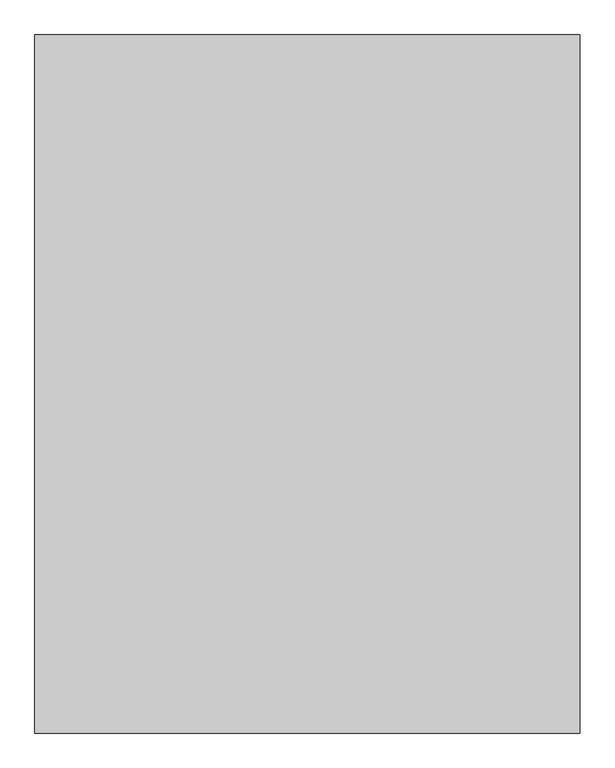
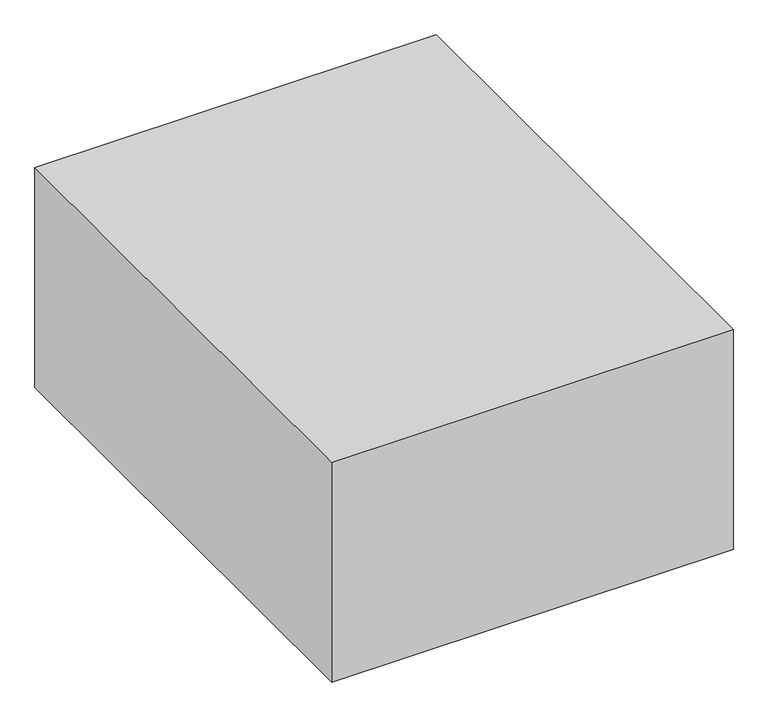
"""IFC4 building model written with IfcOpenShell, lengths in millimetres: furniture geometry, BIMHealth-Bed_Critical_Care-LOD2A-v1 : BIMHealth-Bed_Critical_Care-LOD2A-v1."""

from ifc_helpers import new_model, si_unit, point, frame, frame_2d, origin, origin_with_axes, place, context, project, spatial, polyline, circle_curve, trimmed, segment, composite_curve, outline, extrude, faceted_brep, source, transform, mapped, element, save
from ifc_brep_helpers import plane_surface, cylinder_surface, revolved_surface, advanced_brep


def furniture_204bb5f4(model_context):
    return source(origin(), model_context, "Body", "SolidModel", [
        extrude(outline(polyline([(0.0, 0.0), (147.0, 0.0), (147.0, -150.0), (0.0, -150.0), (0.0, -75.0), (0.0, 0.0)])), frame((-75.0, -1110.5547217, 487.73737), z_axis=(0.0, 0.9659258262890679, 0.25881904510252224), x_axis=(0.0, 0.25881904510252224, -0.9659258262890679)), (0.0, 0.0, 1.0), 25.0),
        extrude(outline(composite_curve([segment(trimmed(circle_curve(frame_2d((334.8033187, 1960.3143684)), 2368.2281756), [point((-2028.0823923, 2119.2980414))], [point((-1978.0823923, 2469.2980414))], False, "CARTESIAN"), True, "CONTINUOUS"), segment(trimmed(circle_curve(frame_2d((-1934.1707425, 2445.3863915)), 50.0), [point((-1978.0823923, 2469.2980414))], [point((-1958.0823924, 2489.2980414))], False, "CARTESIAN"), True, "CONTINUOUS"), segment(polyline([(-1958.0823924, 2489.2980414), (-1828.0823923, 2489.2980414), (-1828.0823923, 2369.2980414), (-1778.0823923, 2369.2980414)]), True, "CONTINUOUS"), segment(trimmed(circle_curve(frame_2d((-1778.0823923, 2329.2980414)), 40.0), [point((-1778.0823923, 2369.2980414))], [point((-1738.0823924, 2329.2980414))], False, "CARTESIAN"), True, "CONTINUOUS"), segment(polyline([(-1738.0823924, 2329.2980414), (-1738.0823924, 1909.2980414)]), True, "CONTINUOUS"), segment(trimmed(circle_curve(frame_2d((-1778.0823923, 1909.2980414)), 40.0), [point((-1738.0823924, 1909.2980414))], [point((-1778.0823923, 1869.2980414))], False, "CARTESIAN"), True, "CONTINUOUS"), segment(polyline([(-1778.0823923, 1869.2980414), (-1828.0823923, 1869.2980414), (-1828.0823923, 1749.2980414), (-1958.0823924, 1749.2980414)]), True, "CONTINUOUS"), segment(trimmed(circle_curve(frame_2d((-1934.1707425, 1793.2096913)), 50.0), [point((-1958.0823924, 1749.2980414))], [point((-1978.0823923, 1769.2980414))], False, "CARTESIAN"), True, "CONTINUOUS"), segment(trimmed(circle_curve(frame_2d((334.8033187, 2278.2817144)), 2368.2281756), [point((-1978.0823923, 1769.2980414))], [point((-2028.0823923, 2119.2980414))], False, "CARTESIAN"), True, "CONTINUOUS")], self_intersect=False), holes=[composite_curve([segment(trimmed(circle_curve(frame_2d((0.0, 2011.0005568)), 2011.0005568), [point((-1958.0823924, 2469.2980414))], [point((-2007.2172204, 2134.2980414))], True, "CARTESIAN"), True, "CONTINUOUS"), segment(polyline([(-2007.2172204, 2134.2980414), (-1918.0823923, 2134.2980414), (-1918.0823923, 2329.2980414)]), True, "CONTINUOUS"), segment(trimmed(circle_curve(frame_2d((-1878.0823924, 2329.2980414)), 40.0), [point((-1918.0823923, 2329.2980414))], [point((-1878.0823924, 2369.2980414))], False, "CARTESIAN"), True, "CONTINUOUS"), segment(polyline([(-1878.0823924, 2369.2980414), (-1848.0823924, 2369.2980414), (-1848.0823924, 2469.2980414), (-1958.0823924, 2469.2980414)]), True, "CONTINUOUS")], self_intersect=False), composite_curve([segment(polyline([(-1958.0823924, 1769.2980414), (-1848.0823924, 1769.2980414), (-1848.0823924, 1869.2980414), (-1878.0823924, 1869.2980414)]), True, "CONTINUOUS"), segment(trimmed(circle_curve(frame_2d((-1878.0823924, 1909.2980414)), 40.0), [point((-1878.0823924, 1869.2980414))], [point((-1918.0823923, 1909.2980414))], False, "CARTESIAN"), True, "CONTINUOUS"), segment(polyline([(-1918.0823923, 1909.2980414), (-1918.0823923, 2104.2980414), (-2007.2172204, 2104.2980414)]), True, "CONTINUOUS"), segment(trimmed(circle_curve(frame_2d((0.0, 2227.595526)), 2011.0005568), [point((-2007.2172204, 2104.2980414))], [point((-1958.0823924, 1769.2980414))], True, "CARTESIAN"), True, "CONTINUOUS")], self_intersect=False)]), frame((2119.2980414, -665.5355258, -1192.4153962), z_axis=(0.0, 0.965925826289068, 0.25881904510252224), x_axis=(0.0, 0.25881904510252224, -0.965925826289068)), (0.0, 0.0, 1.0), 30.0),
        extrude(outline(polyline([(-167.0979769, 614.5113507), (-179.9098711, 468.07073), (-329.3390758, 481.1440915), (-316.5271816, 627.5847121), (-241.8125793, 621.0480314), (-167.0979769, 614.5113507)])), frame((495.0, 0.0, 0.0), z_axis=(1.0, 0.0, 0.0), x_axis=(0.0, 1.0, 0.0)), (0.0, 0.0, 1.0), 25.0),
        extrude(outline(polyline([(-167.0979769, 614.5113507), (-179.9098711, 468.07073), (-329.3390758, 481.1440915), (-316.5271816, 627.5847121), (-241.8125793, 621.0480314), (-167.0979769, 614.5113507)])), frame((-520.0, 0.0, 0.0), z_axis=(1.0, 0.0, 0.0), x_axis=(0.0, 1.0, 0.0)), (0.0, 0.0, 1.0), 25.0),
        extrude(outline(composite_curve([segment(trimmed(circle_curve(frame_2d((-580.8551652, -1430.0933836)), 2368.2281756), [point((-216.5374139, 909.9444938))], [point((127.7729433, 829.630249))], False, "CARTESIAN"), True, "CONTINUOUS"), segment(trimmed(circle_curve(frame_2d((100.125132, 787.9697337)), 50.0), [point((127.7729433, 829.630249))], [point((145.9537224, 807.9632401))], False, "CARTESIAN"), True, "CONTINUOUS"), segment(polyline([(145.9537224, 807.9632401), (134.6234759, 678.4579294), (15.0801121, 688.9166185), (10.722325, 639.1068836)]), True, "CONTINUOUS"), segment(trimmed(circle_curve(frame_2d((-29.1254629, 642.5931133)), 40.0), [point((10.722325, 639.1068836))], [point((-32.6116927, 602.7453254))], False, "CARTESIAN"), True, "CONTINUOUS"), segment(polyline([(-32.6116927, 602.7453254), (-451.0134659, 639.3507373)]), True, "CONTINUOUS"), segment(trimmed(circle_curve(frame_2d((-447.5272361, 679.1985253)), 40.0), [point((-451.0134659, 639.3507373))], [point((-487.3750241, 682.684755))], False, "CARTESIAN"), True, "CONTINUOUS"), segment(polyline([(-487.3750241, 682.684755), (-483.0172369, 732.4944899), (-602.5606007, 742.953179), (-591.2303541, 872.4584898)]), True, "CONTINUOUS"), segment(trimmed(circle_curve(frame_2d((-549.5698389, 844.8106784)), 50.0), [point((-591.2303541, 872.4584898))], [point((-569.5633453, 890.6392689))], False, "CARTESIAN"), True, "CONTINUOUS"), segment(trimmed(circle_curve(frame_2d((-264.0977809, -1457.8060638)), 2368.2281756), [point((-569.5633453, 890.6392689))], [point((-216.5374139, 909.9444938))], False, "CARTESIAN"), True, "CONTINUOUS")], self_intersect=False), holes=[composite_curve([segment(trimmed(circle_curve(frame_2d((-501.1818211, -1100.981685)), 2011.0005568), [point((126.0298285, 809.706355))], [point((-203.4130129, 887.851384))], True, "CARTESIAN"), True, "CONTINUOUS"), segment(polyline([(-203.4130129, 887.851384), (-211.1816251, 799.0557409), (-16.923659, 782.060371)]), True, "CONTINUOUS"), segment(trimmed(circle_curve(frame_2d((-20.4098887, 742.2125831)), 40.0), [point((-16.923659, 782.060371))], [point((19.4378992, 738.7263534))], False, "CARTESIAN"), True, "CONTINUOUS"), segment(polyline([(19.4378992, 738.7263534), (16.823227, 708.8405125), (116.4426968, 700.1249382), (126.0298285, 809.706355)]), True, "CONTINUOUS")], self_intersect=False), composite_curve([segment(polyline([(-571.3064602, 870.7153749), (-580.8935919, 761.1339581), (-481.2741221, 752.4183838), (-478.6594498, 782.3042248)]), True, "CONTINUOUS"), segment(trimmed(circle_curve(frame_2d((-438.8116619, 778.8179951)), 40.0), [point((-478.6594498, 782.3042248))], [point((-435.3254322, 818.665783))], False, "CARTESIAN"), True, "CONTINUOUS"), segment(polyline([(-435.3254322, 818.665783), (-241.067466, 801.6704132), (-233.2988539, 890.4660563)]), True, "CONTINUOUS"), segment(trimmed(circle_curve(frame_2d((-285.4110611, -1119.8591804)), 2011.0005568), [point((-233.2988539, 890.4660563))], [point((-571.3064602, 870.7153749))], True, "CARTESIAN"), True, "CONTINUOUS")], self_intersect=False)]), frame((495.0, 0.0, 0.0), z_axis=(1.0, 0.0, 0.0), x_axis=(0.0, 1.0, 0.0)), (0.0, 0.0, 1.0), 30.0),
        extrude(outline(composite_curve([segment(trimmed(circle_curve(frame_2d((-580.8551652, -1430.0933836)), 2368.2281756), [point((-216.5374139, 909.9444938))], [point((127.7729433, 829.630249))], False, "CARTESIAN"), True, "CONTINUOUS"), segment(trimmed(circle_curve(frame_2d((100.125132, 787.9697337)), 50.0), [point((127.7729433, 829.630249))], [point((145.9537224, 807.9632401))], False, "CARTESIAN"), True, "CONTINUOUS"), segment(polyline([(145.9537224, 807.9632401), (134.6234759, 678.4579294), (15.0801121, 688.9166185), (10.722325, 639.1068836)]), True, "CONTINUOUS"), segment(trimmed(circle_curve(frame_2d((-29.1254629, 642.5931133)), 40.0), [point((10.722325, 639.1068836))], [point((-32.6116927, 602.7453254))], False, "CARTESIAN"), True, "CONTINUOUS"), segment(polyline([(-32.6116927, 602.7453254), (-451.0134659, 639.3507373)]), True, "CONTINUOUS"), segment(trimmed(circle_curve(frame_2d((-447.5272361, 679.1985253)), 40.0), [point((-451.0134659, 639.3507373))], [point((-487.3750241, 682.684755))], False, "CARTESIAN"), True, "CONTINUOUS"), segment(polyline([(-487.3750241, 682.684755), (-483.0172369, 732.4944899), (-602.5606007, 742.953179), (-591.2303541, 872.4584898)]), True, "CONTINUOUS"), segment(trimmed(circle_curve(frame_2d((-549.5698389, 844.8106784)), 50.0), [point((-591.2303541, 872.4584898))], [point((-569.5633453, 890.6392689))], False, "CARTESIAN"), True, "CONTINUOUS"), segment(trimmed(circle_curve(frame_2d((-264.0977809, -1457.8060638)), 2368.2281756), [point((-569.5633453, 890.6392689))], [point((-216.5374139, 909.9444938))], False, "CARTESIAN"), True, "CONTINUOUS")], self_intersect=False), holes=[composite_curve([segment(trimmed(circle_curve(frame_2d((-501.1818211, -1100.981685)), 2011.0005568), [point((126.0298285, 809.706355))], [point((-203.4130129, 887.851384))], True, "CARTESIAN"), True, "CONTINUOUS"), segment(polyline([(-203.4130129, 887.851384), (-211.1816251, 799.0557409), (-16.923659, 782.060371)]), True, "CONTINUOUS"), segment(trimmed(circle_curve(frame_2d((-20.4098887, 742.2125831)), 40.0), [point((-16.923659, 782.060371))], [point((19.4378992, 738.7263534))], False, "CARTESIAN"), True, "CONTINUOUS"), segment(polyline([(19.4378992, 738.7263534), (16.823227, 708.8405125), (116.4426968, 700.1249382), (126.0298285, 809.706355)]), True, "CONTINUOUS")], self_intersect=False), composite_curve([segment(polyline([(-571.3064602, 870.7153749), (-580.8935919, 761.1339581), (-481.2741221, 752.4183838), (-478.6594498, 782.3042248)]), True, "CONTINUOUS"), segment(trimmed(circle_curve(frame_2d((-438.8116619, 778.8179951)), 40.0), [point((-478.6594498, 782.3042248))], [point((-435.3254322, 818.665783))], False, "CARTESIAN"), True, "CONTINUOUS"), segment(polyline([(-435.3254322, 818.665783), (-241.067466, 801.6704132), (-233.2988539, 890.4660563)]), True, "CONTINUOUS"), segment(trimmed(circle_curve(frame_2d((-285.4110611, -1119.8591804)), 2011.0005568), [point((-233.2988539, 890.4660563))], [point((-571.3064602, 870.7153749))], True, "CARTESIAN"), True, "CONTINUOUS")], self_intersect=False)]), frame((-525.0, 0.0, 0.0), z_axis=(1.0, 0.0, 0.0), x_axis=(0.0, 1.0, 0.0)), (0.0, 0.0, 1.0), 30.0),
        faceted_brep([(400.0, -640.0, 433.0), (400.0, 1170.0, 433.0), (-400.0, 1170.0, 433.0), (-400.0, -640.0, 433.0), (0.0, -640.0, 433.0), (350.0, 1079.8644864, 433.0), (350.0, 679.8644864, 433.0), (-350.0, 679.8644864, 433.0), (-350.0, 1079.8644864, 433.0), (-400.0, -640.0, 233.0), (-400.0, 1170.0, 233.0), (400.0, 1170.0, 233.0), (400.0, -640.0, 233.0), (0.0, -640.0, 233.0), (350.0, 1079.8644864, 233.0), (-350.0, 1079.8644864, 233.0), (-350.0, 679.8644864, 233.0), (350.0, 679.8644864, 233.0), (400.0, -1045.688847, 324.2960011), (400.0, -895.3380277, 269.5727781), (-400.0, -895.3380277, 269.5727781), (-400.0, -1045.688847, 324.2960011)], [[[0, 1, 2, 3, 4], [5, 6, 7, 8]], [[9, 10, 11, 12, 13], [14, 15, 16, 17]], [[1, 0, 18, 19, 12, 11]], [[2, 1, 11, 10]], [[3, 2, 10, 9, 20, 21]], [[6, 5, 14, 17]], [[7, 6, 17, 16]], [[8, 7, 16, 15]], [[5, 8, 15, 14]], [[19, 18, 21, 20]], [[12, 19, 20, 9, 13]], [[18, 0, 4, 3, 21]]]),
        extrude(outline(composite_curve([segment(polyline([(223.6725192, 464.898911), (1093.6051777, 870.5551718), (1099.9444517, 856.960555), (228.2220279, 450.469713), (159.5911573, 438.3682388), (-432.4631561, 490.1662794)]), True, "CONTINUOUS"), segment(trimmed(circle_curve(frame_2d((-448.5869686, 305.8702603)), 185.0), [point((-432.4631561, 490.1662794))], [point((-496.4684919, 484.5665381))], True, "CARTESIAN"), True, "CONTINUOUS"), segment(polyline([(-496.4684919, 484.5665381), (-1068.6260364, 331.2573861), (-1072.5083221, 345.7462735), (-500.3507776, 499.0554255)]), True, "CONTINUOUS"), segment(trimmed(circle_curve(frame_2d((-448.5869686, 305.8702603)), 200.0), [point((-500.3507776, 499.0554255))], [point((-431.15582, 505.1091999))], False, "CARTESIAN"), True, "CONTINUOUS"), segment(polyline([(-431.15582, 505.1091999), (158.9312207, 453.4832733), (223.6725192, 464.898911)]), True, "CONTINUOUS")], self_intersect=False)), frame((-495.0, 0.0, 0.0), z_axis=(1.0, 0.0, 0.0), x_axis=(0.0, 1.0, 0.0)), (0.0, 0.0, 1.0), 990.0),
        advanced_brep(
        [(495.0, 170.0, 580.0), (495.0, 1039.9326585, 985.6562607), (-495.0, 1039.9326585, 985.6562607), (-495.0, 170.0, 580.0), (-495.0, 223.6725192, 464.898911), (-495.0, 1093.6051777, 870.5551718), (495.0, 1093.6051777, 870.5551718), (495.0, 223.6725192, 464.898911), (495.0, -442.3953531, 633.577651), (495.0, -511.5903107, 627.5238766), (495.0, -1081.2301952, 474.8893296), (495.0, -1048.3601765, 352.2167497), (495.0, -500.3507776, 499.0554255), (495.0, -431.15582, 505.1091999), (495.0, 158.9312207, 453.4832733), (-495.0, 158.9312207, 453.4832733), (-495.0, -431.15582, 505.1091999), (-495.0, -500.3507776, 499.0554255), (-495.0, -1048.3601765, 352.2167497), (-495.0, -1081.2301952, 474.8893296), (-495.0, -511.5903107, 627.5238766), (-495.0, -442.3953531, 633.577651)],
        [
            (0, 1),
            (1, 2, circle_curve(frame((0.0, -1708.3582086, -295.8928174), z_axis=(0.0, -0.4226182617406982, 0.9063077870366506), x_axis=(1.0, 0.0, 0.0)), 3072.5389713)),
            (2, 3),
            (3, 0),
            (4, 5),
            (5, 6, circle_curve(frame((0.0, -1654.6856894, -410.9939064), z_axis=(0.0, 0.4226182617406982, -0.9063077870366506), x_axis=(1.0, 0.0, 0.0)), 3072.5389713)),
            (6, 7),
            (7, 4),
            (0, 8),
            (8, 9, circle_curve(frame((495.0, -459.8265016, 434.3387114), z_axis=(1.0, 0.0, 0.0), x_axis=(0.0, -1.0, 0.0)), 200.0)),
            (9, 10),
            (10, 11),
            (11, 12),
            (12, 13, circle_curve(frame((495.0, -448.5869686, 305.8702603), z_axis=(-1.0, 0.0, 0.0), x_axis=(0.0, -1.0, 0.0)), 200.0)),
            (13, 14),
            (14, 7),
            (6, 1),
            (5, 2),
            (4, 15),
            (15, 16),
            (16, 17, circle_curve(frame((-495.0, -448.5869686, 305.8702603), z_axis=(1.0, 0.0, 0.0), x_axis=(0.0, -1.0, 0.0)), 200.0)),
            (17, 18),
            (18, 19),
            (19, 20),
            (20, 21, circle_curve(frame((-495.0, -459.8265016, 434.3387114), z_axis=(-1.0, 0.0, 0.0), x_axis=(0.0, -1.0, 0.0)), 200.0)),
            (21, 3),
            (21, 8),
            (20, 9),
            (19, 10),
            (11, 18),
            (17, 12),
            (16, 13),
            (15, 14),
        ],
        [
            plane_surface(frame((-495.0, 170.0, 580.0), z_axis=(0.0, -0.4226182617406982, 0.9063077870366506), x_axis=(1.0, 0.0, 0.0))),
            plane_surface(frame((-495.0, 223.6725192, 464.898911), z_axis=(0.0, 0.4226182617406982, -0.9063077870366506), x_axis=(-1.0, 0.0, 0.0))),
            plane_surface(frame((495.0, 170.0, 580.0), z_axis=(1.0, 0.0, 0.0), x_axis=(0.0, 0.422618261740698, -0.9063077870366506))),
            cylinder_surface(frame((0.0, -1654.6856894, -410.9939064), z_axis=(0.0, -0.4226182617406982, 0.9063077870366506), x_axis=(1.0, 0.0, 0.0)), 3072.5389713),
            plane_surface(frame((-495.0, 1039.9326585, 985.6562607), z_axis=(-1.0, 0.0, 0.0), x_axis=(0.0, 0.4226182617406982, -0.9063077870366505))),
            plane_surface(frame((495.0, 170.0, 580.0), z_axis=(0.0, 0.08715574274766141, 0.9961946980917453), x_axis=(-1.0, 0.0, 0.0))),
            cylinder_surface(frame((-495.0, -459.8265016, 434.3387114), z_axis=(1.0, 0.0, 0.0), x_axis=(0.0, -1.0, 0.0)), 200.0),
            plane_surface(frame((495.0, -511.5903107, 627.5238766), z_axis=(0.0, -0.25881904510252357, 0.9659258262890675), x_axis=(-1.0, 0.0, 0.0))),
            plane_surface(frame((495.0, -1048.3601765, 352.2167497), z_axis=(0.0, 0.2588190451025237, -0.9659258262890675), x_axis=(-1.0, 0.0, 0.0))),
            revolved_surface(polyline([(-495.0, -648.5869686, 305.8702603), (495.0, -648.5869686, 305.8702603)]), (-495.0, -448.5869686, 305.8702603), (-1.0, 0.0, 0.0)),
            plane_surface(frame((495.0, -431.15582, 505.1091999), z_axis=(0.0, -0.08715574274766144, -0.9961946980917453), x_axis=(-1.0, 0.0, 0.0))),
            plane_surface(frame((495.0, 158.9312207, 453.4832733), z_axis=(0.0, 0.17364817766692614, -0.9848077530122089), x_axis=(-1.0, 0.0, 0.0))),
            plane_surface(frame((495.0, -1081.2301952, 474.8893296), z_axis=(0.0, -0.9659258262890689, -0.25881904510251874), x_axis=(-1.0, 0.0, 0.0))),
        ],
        [
            (0, [[1, 2, 3, 4]]),
            (1, [[5, 6, 7, 8]]),
            (2, [[-1, 9, 10, 11, 12, 13, 14, 15, 16, -7, 17]]),
            (3, [[-2, -17, -6, 18]]),
            (4, [[-3, -18, -5, 19, 20, 21, 22, 23, 24, 25, 26]]),
            (5, [[-9, -4, -26, 27]]),
            (6, [[-10, -27, -25, 28]]),
            (7, [[-11, -28, -24, 29]]),
            (8, [[-13, 30, -22, 31]]),
            (9, [[-14, -31, -21, 32]]),
            (10, [[-15, -32, -20, 33]]),
            (11, [[-16, -33, -19, -8]]),
            (12, [[-12, -29, -23, -30]]),
        ],
    ),
        extrude(outline(composite_curve([segment(trimmed(circle_curve(frame_2d((-200.0, 879.8644864)), 30.0), [point((-230.0, 879.8644864))], [point((-170.0, 879.8644864))], False, "CARTESIAN"), True, "CONTINUOUS"), segment(trimmed(circle_curve(frame_2d((-200.0, 879.8644864)), 30.0), [point((-170.0, 879.8644864))], [point((-230.0, 879.8644864))], False, "CARTESIAN"), True, "CONTINUOUS")], self_intersect=False)), frame((0.0, 0.0, 403.0), z_axis=(0.0, 0.0, 1.0), x_axis=(1.0, 0.0, 0.0)), (0.0, 0.0, 1.0), 357.0),
        extrude(outline(composite_curve([segment(trimmed(circle_curve(frame_2d((200.0, 879.8644864)), 30.0), [point((230.0, 879.8644864))], [point((170.0, 879.8644864))], False, "CARTESIAN"), True, "CONTINUOUS"), segment(trimmed(circle_curve(frame_2d((200.0, 879.8644864)), 30.0), [point((170.0, 879.8644864))], [point((230.0, 879.8644864))], False, "CARTESIAN"), True, "CONTINUOUS")], self_intersect=False)), frame((0.0, 0.0, 403.0), z_axis=(0.0, 0.0, 1.0), x_axis=(1.0, 0.0, 0.0)), (0.0, 0.0, 1.0), 357.0),
        extrude(outline(polyline([(350.0, 1079.8644864), (350.0, 679.8644864), (-350.0, 679.8644864), (-350.0, 1079.8644864), (350.0, 1079.8644864)])), frame((0.0, 0.0, 344.0), z_axis=(0.0, 0.0, 1.0), x_axis=(1.0, 0.0, 0.0)), (0.0, 0.0, 1.0), 59.0),
        extrude(outline(composite_curve([segment(trimmed(circle_curve(frame_2d((-370.0, -435.0)), 20.0), [point((-350.0, -435.0))], [point((-390.0, -435.0))], False, "CARTESIAN"), True, "CONTINUOUS"), segment(trimmed(circle_curve(frame_2d((-370.0, -435.0)), 20.0), [point((-390.0, -435.0))], [point((-350.0, -435.0))], False, "CARTESIAN"), True, "CONTINUOUS")], self_intersect=False)), frame((0.0, 0.0, 175.0), z_axis=(0.0, 0.0, 1.0), x_axis=(1.0, 0.0, 0.0)), (0.0, 0.0, 1.0), 58.0),
        extrude(outline(polyline([(-392.5, -467.5), (-392.5, -402.5), (-347.5, -402.5), (-347.5, -467.5), (-392.5, -467.5)])), frame((0.0, 0.0, 165.0), z_axis=(0.0, 0.0, 1.0), x_axis=(1.0, 0.0, 0.0)), (0.0, 0.0, 1.0), 10.0),
        extrude(outline(polyline([(-467.5, 75.0), (-467.5, 165.0), (-402.5, 165.0), (-402.5, 150.0), (-457.5, 75.0), (-467.5, 75.0)])), frame((-357.5, 0.0, 0.0), z_axis=(1.0, 0.0, 0.0), x_axis=(0.0, 1.0, 0.0)), (0.0, 0.0, 1.0), 10.0),
        extrude(outline(polyline([(-467.5, 75.0), (-467.5, 165.0), (-402.5, 165.0), (-402.5, 150.0), (-457.5, 75.0), (-467.5, 75.0)])), frame((-392.5, 0.0, 0.0), z_axis=(1.0, 0.0, 0.0), x_axis=(0.0, 1.0, 0.0)), (0.0, 0.0, 1.0), 10.0),
        extrude(outline(composite_curve([segment(trimmed(circle_curve(frame_2d((-457.5, 75.0)), 75.0), [point((-532.5, 75.0))], [point((-382.5, 75.0))], False, "CARTESIAN"), True, "CONTINUOUS"), segment(trimmed(circle_curve(frame_2d((-457.5, 75.0)), 75.0), [point((-382.5, 75.0))], [point((-532.5, 75.0))], False, "CARTESIAN"), True, "CONTINUOUS")], self_intersect=False)), frame((-382.5, 0.0, 0.0), z_axis=(1.0, 0.0, 0.0), x_axis=(0.0, 1.0, 0.0)), (0.0, 0.0, 1.0), 25.0),
        extrude(outline(composite_curve([segment(trimmed(circle_curve(frame_2d((370.0, -435.0)), 20.0), [point((350.0, -435.0))], [point((390.0, -435.0))], False, "CARTESIAN"), True, "CONTINUOUS"), segment(trimmed(circle_curve(frame_2d((370.0, -435.0)), 20.0), [point((390.0, -435.0))], [point((350.0, -435.0))], False, "CARTESIAN"), True, "CONTINUOUS")], self_intersect=False)), frame((0.0, 0.0, 175.0), z_axis=(0.0, 0.0, 1.0), x_axis=(1.0, 0.0, 0.0)), (0.0, 0.0, 1.0), 58.0),
        extrude(outline(polyline([(392.5, -402.5), (392.5, -467.5), (347.5, -467.5), (347.5, -402.5), (392.5, -402.5)])), frame((0.0, 0.0, 165.0), z_axis=(0.0, 0.0, 1.0), x_axis=(1.0, 0.0, 0.0)), (0.0, 0.0, 1.0), 10.0),
        extrude(outline(polyline([(-467.5, 75.0), (-467.5, 165.0), (-402.5, 165.0), (-402.5, 150.0), (-457.5, 75.0), (-467.5, 75.0)])), frame((347.5, 0.0, 0.0), z_axis=(1.0, 0.0, 0.0), x_axis=(0.0, 1.0, 0.0)), (0.0, 0.0, 1.0), 10.0),
        extrude(outline(polyline([(-467.5, 75.0), (-467.5, 165.0), (-402.5, 165.0), (-402.5, 150.0), (-457.5, 75.0), (-467.5, 75.0)])), frame((382.5, 0.0, 0.0), z_axis=(1.0, 0.0, 0.0), x_axis=(0.0, 1.0, 0.0)), (0.0, 0.0, 1.0), 10.0),
        extrude(outline(composite_curve([segment(trimmed(circle_curve(frame_2d((-457.5, 75.0)), 75.0), [point((-532.5, 75.0))], [point((-382.5, 75.0))], False, "CARTESIAN"), True, "CONTINUOUS"), segment(trimmed(circle_curve(frame_2d((-457.5, 75.0)), 75.0), [point((-382.5, 75.0))], [point((-532.5, 75.0))], False, "CARTESIAN"), True, "CONTINUOUS")], self_intersect=False)), frame((357.5, 0.0, 0.0), z_axis=(1.0, 0.0, 0.0), x_axis=(0.0, 1.0, 0.0)), (0.0, 0.0, 1.0), 25.0),
        extrude(outline(composite_curve([segment(trimmed(circle_curve(frame_2d((-370.0, 1147.5)), 20.0), [point((-350.0, 1147.5))], [point((-390.0, 1147.5))], False, "CARTESIAN"), True, "CONTINUOUS"), segment(trimmed(circle_curve(frame_2d((-370.0, 1147.5)), 20.0), [point((-390.0, 1147.5))], [point((-350.0, 1147.5))], False, "CARTESIAN"), True, "CONTINUOUS")], self_intersect=False)), frame((0.0, 0.0, 175.0), z_axis=(0.0, 0.0, 1.0), x_axis=(1.0, 0.0, 0.0)), (0.0, 0.0, 1.0), 58.0),
        extrude(outline(polyline([(-392.5, 1115.0), (-392.5, 1180.0), (-347.5, 1180.0), (-347.5, 1115.0), (-392.5, 1115.0)])), frame((0.0, 0.0, 165.0), z_axis=(0.0, 0.0, 1.0), x_axis=(1.0, 0.0, 0.0)), (0.0, 0.0, 1.0), 10.0),
        extrude(outline(polyline([(1180.0, 75.0), (1170.0, 75.0), (1115.0, 150.0), (1115.0, 165.0), (1180.0, 165.0), (1180.0, 75.0)])), frame((-357.5, 0.0, 0.0), z_axis=(1.0, 0.0, 0.0), x_axis=(0.0, 1.0, 0.0)), (0.0, 0.0, 1.0), 10.0),
        extrude(outline(polyline([(1180.0, 75.0), (1170.0, 75.0), (1115.0, 150.0), (1115.0, 165.0), (1180.0, 165.0), (1180.0, 75.0)])), frame((-392.5, 0.0, 0.0), z_axis=(1.0, 0.0, 0.0), x_axis=(0.0, 1.0, 0.0)), (0.0, 0.0, 1.0), 10.0),
        extrude(outline(composite_curve([segment(trimmed(circle_curve(frame_2d((1170.0, 75.0)), 75.0), [point((1245.0, 75.0))], [point((1095.0, 75.0))], False, "CARTESIAN"), True, "CONTINUOUS"), segment(trimmed(circle_curve(frame_2d((1170.0, 75.0)), 75.0), [point((1095.0, 75.0))], [point((1245.0, 75.0))], False, "CARTESIAN"), True, "CONTINUOUS")], self_intersect=False)), frame((-382.5, 0.0, 0.0), z_axis=(1.0, 0.0, 0.0), x_axis=(0.0, 1.0, 0.0)), (0.0, 0.0, 1.0), 25.0),
        extrude(outline(composite_curve([segment(trimmed(circle_curve(frame_2d((370.0, 1147.5)), 20.0), [point((350.0, 1147.5))], [point((390.0, 1147.5))], False, "CARTESIAN"), True, "CONTINUOUS"), segment(trimmed(circle_curve(frame_2d((370.0, 1147.5)), 20.0), [point((390.0, 1147.5))], [point((350.0, 1147.5))], False, "CARTESIAN"), True, "CONTINUOUS")], self_intersect=False)), frame((0.0, 0.0, 175.0), z_axis=(0.0, 0.0, 1.0), x_axis=(1.0, 0.0, 0.0)), (0.0, 0.0, 1.0), 58.0),
        extrude(outline(polyline([(392.5, 1180.0), (392.5, 1115.0), (347.5, 1115.0), (347.5, 1180.0), (392.5, 1180.0)])), frame((0.0, 0.0, 165.0), z_axis=(0.0, 0.0, 1.0), x_axis=(1.0, 0.0, 0.0)), (0.0, 0.0, 1.0), 10.0),
        extrude(outline(polyline([(1180.0, 75.0), (1170.0, 75.0), (1115.0, 150.0), (1115.0, 165.0), (1180.0, 165.0), (1180.0, 75.0)])), frame((347.5, 0.0, 0.0), z_axis=(1.0, 0.0, 0.0), x_axis=(0.0, 1.0, 0.0)), (0.0, 0.0, 1.0), 10.0),
        extrude(outline(polyline([(1180.0, 75.0), (1170.0, 75.0), (1115.0, 150.0), (1115.0, 165.0), (1180.0, 165.0), (1180.0, 75.0)])), frame((382.5, 0.0, 0.0), z_axis=(1.0, 0.0, 0.0), x_axis=(0.0, 1.0, 0.0)), (0.0, 0.0, 1.0), 10.0),
        extrude(outline(composite_curve([segment(trimmed(circle_curve(frame_2d((1170.0, 75.0)), 75.0), [point((1245.0, 75.0))], [point((1095.0, 75.0))], False, "CARTESIAN"), True, "CONTINUOUS"), segment(trimmed(circle_curve(frame_2d((1170.0, 75.0)), 75.0), [point((1095.0, 75.0))], [point((1245.0, 75.0))], False, "CARTESIAN"), True, "CONTINUOUS")], self_intersect=False)), frame((357.5, 0.0, 0.0), z_axis=(1.0, 0.0, 0.0), x_axis=(0.0, 1.0, 0.0)), (0.0, 0.0, 1.0), 25.0),
        extrude(outline(polyline([(580.0, 350.0), (433.0, 350.0), (344.0, 350.0), (344.0, 370.0), (580.0, 370.0), (580.0, 350.0)])), frame((0.0, 1170.0, 0.0), z_axis=(0.0, 1.0, 0.0), x_axis=(0.0, 0.0, 1.0)), (0.0, 0.0, 1.0), 20.0),
        extrude(outline(polyline([(580.0, -370.0), (433.0, -370.0), (344.0, -370.0), (344.0, -350.0), (580.0, -350.0), (580.0, -370.0)])), frame((0.0, 1170.0, 0.0), z_axis=(0.0, 1.0, 0.0), x_axis=(0.0, 0.0, 1.0)), (0.0, 0.0, 1.0), 20.0),
        extrude(outline(composite_curve([segment(polyline([(580.0, 525.0), (980.0, 525.0)]), True, "CONTINUOUS"), segment(trimmed(circle_curve(frame_2d((980.0, 475.0)), 50.0), [point((980.0, 525.0))], [point((1030.0, 475.0))], False, "CARTESIAN"), True, "CONTINUOUS"), segment(polyline([(1030.0, 475.0), (1030.0, -475.0)]), True, "CONTINUOUS"), segment(trimmed(circle_curve(frame_2d((980.0, -475.0)), 50.0), [point((1030.0, -475.0))], [point((980.0, -525.0))], False, "CARTESIAN"), True, "CONTINUOUS"), segment(polyline([(980.0, -525.0), (580.0, -525.0), (580.0, 525.0)]), True, "CONTINUOUS")], self_intersect=False)), frame((0.0, 1170.0, 0.0), z_axis=(0.0, 1.0, 0.0), x_axis=(0.0, 0.0, 1.0)), (0.0, 0.0, 1.0), 25.0),
        extrude(outline(polyline([(672.9394133, 814.5245), (735.0642978, 681.2972553), (599.1181297, 617.904516), (536.9932452, 751.1317607), (604.9663293, 782.8281304), (672.9394133, 814.5245)])), frame((495.0, 0.0, 0.0), z_axis=(1.0, 0.0, 0.0), x_axis=(0.0, 1.0, 0.0)), (0.0, 0.0, 1.0), 25.0),
        extrude(outline(polyline([(672.9394133, 814.5245), (735.0642978, 681.2972553), (599.1181297, 617.904516), (536.9932452, 751.1317607), (604.9663293, 782.8281304), (672.9394133, 814.5245)])), frame((-520.0, 0.0, 0.0), z_axis=(1.0, 0.0, 0.0), x_axis=(0.0, 1.0, 0.0)), (0.0, 0.0, 1.0), 25.0),
        extrude(outline(composite_curve([segment(trimmed(circle_curve(frame_2d((1336.9175444, -1163.0337347)), 2368.2281756), [point((482.4070333, 1045.6573886))], [point((820.7456719, 1148.2583909))], False, "CARTESIAN"), True, "CONTINUOUS"), segment(trimmed(circle_curve(frame_2d((817.6322225, 1098.3554207)), 50.0), [point((820.7456719, 1148.2583909))], [point((847.3241929, 1138.5846004))], False, "CARTESIAN"), True, "CONTINUOUS"), segment(polyline([(847.3241929, 1138.5846004), (902.2645669, 1020.764588), (793.5076325, 970.0503966), (814.6385455, 924.7350073)]), True, "CONTINUOUS"), segment(trimmed(circle_curve(frame_2d((778.3862341, 907.8302768)), 40.0), [point((814.6385455, 924.7350073))], [point((795.2909645, 871.5779653))], False, "CARTESIAN"), True, "CONTINUOUS"), segment(polyline([(795.2909645, 871.5779653), (414.641694, 694.0782954)]), True, "CONTINUOUS"), segment(trimmed(circle_curve(frame_2d((397.7369635, 730.3306069)), 40.0), [point((414.641694, 694.0782954))], [point((361.484652, 713.4258764))], False, "CARTESIAN"), True, "CONTINUOUS"), segment(polyline([(361.484652, 713.4258764), (340.3537389, 758.7412658), (231.5968045, 708.0270744), (176.6564305, 825.8470867)]), True, "CONTINUOUS"), segment(trimmed(circle_curve(frame_2d((226.5594006, 822.7336373)), 50.0), [point((176.6564305, 825.8470867))], [point((186.330221, 852.4256077))], False, "CARTESIAN"), True, "CONTINUOUS"), segment(trimmed(circle_curve(frame_2d((1625.0938261, -1028.6549276)), 2368.2281756), [point((186.330221, 852.4256077))], [point((482.4070333, 1045.6573886))], False, "CARTESIAN"), True, "CONTINUOUS")], self_intersect=False), holes=[composite_curve([segment(trimmed(circle_curve(frame_2d((1241.360835, -838.177971)), 2011.0005568), [point((829.1980371, 1130.1322351))], [point((504.8196528, 1033.0863947))], True, "CARTESIAN"), True, "CONTINUOUS"), segment(polyline([(504.8196528, 1033.0863947), (542.4896589, 952.302806), (719.2196774, 1034.713367)]), True, "CONTINUOUS"), segment(trimmed(circle_curve(frame_2d((736.1244079, 998.4610555)), 40.0), [point((719.2196774, 1034.713367))], [point((772.3767194, 1015.365786))], False, "CARTESIAN"), True, "CONTINUOUS"), segment(polyline([(772.3767194, 1015.365786), (785.0552672, 988.1765524), (875.6860459, 1030.4383786), (829.1980371, 1130.1322351)]), True, "CONTINUOUS")], self_intersect=False), composite_curve([segment(polyline([(194.7825862, 834.2994519), (241.270595, 734.6055953), (331.9013737, 776.8674215), (319.2228259, 804.0566551)]), True, "CONTINUOUS"), segment(trimmed(circle_curve(frame_2d((355.4751373, 820.9613856)), 40.0), [point((319.2228259, 804.0566551))], [point((338.5704069, 857.2136971))], False, "CARTESIAN"), True, "CONTINUOUS"), segment(polyline([(338.5704069, 857.2136971), (515.3004253, 939.6242581), (477.6304192, 1020.4078469)]), True, "CONTINUOUS"), segment(trimmed(circle_curve(frame_2d((1437.6625423, -746.6409816)), 2011.0005568), [point((477.6304192, 1020.4078469))], [point((194.7825862, 834.2994519))], True, "CARTESIAN"), True, "CONTINUOUS")], self_intersect=False)]), frame((495.0, 0.0, 0.0), z_axis=(1.0, 0.0, 0.0), x_axis=(0.0, 1.0, 0.0)), (0.0, 0.0, 1.0), 30.0),
        extrude(outline(composite_curve([segment(trimmed(circle_curve(frame_2d((1336.9175444, -1163.0337347)), 2368.2281756), [point((482.4070333, 1045.6573886))], [point((820.7456719, 1148.2583909))], False, "CARTESIAN"), True, "CONTINUOUS"), segment(trimmed(circle_curve(frame_2d((817.6322225, 1098.3554207)), 50.0), [point((820.7456719, 1148.2583909))], [point((847.3241929, 1138.5846004))], False, "CARTESIAN"), True, "CONTINUOUS"), segment(polyline([(847.3241929, 1138.5846004), (902.2645669, 1020.764588), (793.5076325, 970.0503966), (814.6385455, 924.7350073)]), True, "CONTINUOUS"), segment(trimmed(circle_curve(frame_2d((778.3862341, 907.8302768)), 40.0), [point((814.6385455, 924.7350073))], [point((795.2909645, 871.5779653))], False, "CARTESIAN"), True, "CONTINUOUS"), segment(polyline([(795.2909645, 871.5779653), (414.641694, 694.0782954)]), True, "CONTINUOUS"), segment(trimmed(circle_curve(frame_2d((397.7369635, 730.3306069)), 40.0), [point((414.641694, 694.0782954))], [point((361.484652, 713.4258764))], False, "CARTESIAN"), True, "CONTINUOUS"), segment(polyline([(361.484652, 713.4258764), (340.3537389, 758.7412658), (231.5968045, 708.0270744), (176.6564305, 825.8470867)]), True, "CONTINUOUS"), segment(trimmed(circle_curve(frame_2d((226.5594006, 822.7336373)), 50.0), [point((176.6564305, 825.8470867))], [point((186.330221, 852.4256077))], False, "CARTESIAN"), True, "CONTINUOUS"), segment(trimmed(circle_curve(frame_2d((1625.0938261, -1028.6549276)), 2368.2281756), [point((186.330221, 852.4256077))], [point((482.4070333, 1045.6573886))], False, "CARTESIAN"), True, "CONTINUOUS")], self_intersect=False), holes=[composite_curve([segment(trimmed(circle_curve(frame_2d((1241.360835, -838.177971)), 2011.0005568), [point((829.1980371, 1130.1322351))], [point((504.8196528, 1033.0863947))], True, "CARTESIAN"), True, "CONTINUOUS"), segment(polyline([(504.8196528, 1033.0863947), (542.4896589, 952.302806), (719.2196774, 1034.713367)]), True, "CONTINUOUS"), segment(trimmed(circle_curve(frame_2d((736.1244079, 998.4610555)), 40.0), [point((719.2196774, 1034.713367))], [point((772.3767194, 1015.365786))], False, "CARTESIAN"), True, "CONTINUOUS"), segment(polyline([(772.3767194, 1015.365786), (785.0552672, 988.1765524), (875.6860459, 1030.4383786), (829.1980371, 1130.1322351)]), True, "CONTINUOUS")], self_intersect=False), composite_curve([segment(polyline([(194.7825862, 834.2994519), (241.270595, 734.6055953), (331.9013737, 776.8674215), (319.2228259, 804.0566551)]), True, "CONTINUOUS"), segment(trimmed(circle_curve(frame_2d((355.4751373, 820.9613856)), 40.0), [point((319.2228259, 804.0566551))], [point((338.5704069, 857.2136971))], False, "CARTESIAN"), True, "CONTINUOUS"), segment(polyline([(338.5704069, 857.2136971), (515.3004253, 939.6242581), (477.6304192, 1020.4078469)]), True, "CONTINUOUS"), segment(trimmed(circle_curve(frame_2d((1437.6625423, -746.6409816)), 2011.0005568), [point((477.6304192, 1020.4078469))], [point((194.7825862, 834.2994519))], True, "CARTESIAN"), True, "CONTINUOUS")], self_intersect=False)]), frame((-525.0, 0.0, 0.0), z_axis=(1.0, 0.0, 0.0), x_axis=(0.0, 1.0, 0.0)), (0.0, 0.0, 1.0), 30.0),
        extrude(outline(polyline([(1295.0, 1345.0), (1295.0, -1970.0), (-1295.0, -1970.0), (-1295.0, 1345.0), (1295.0, 1345.0)])), origin_with_axes(), (0.0, 0.0, 1.0), 1500.0),
    ])


if __name__ == "__main__":
    model = new_model("IFC4")
    model_context = context("Model", 3, world=origin())
    ifc_project = project(units=[si_unit("LENGTHUNIT", "METRE", prefix="MILLI")], contexts=[model_context])
    site = spatial("IfcSite", under=ifc_project)
    building = spatial("IfcBuilding", under=site)
    placement = place(None, origin())
    furniture_shape = furniture_204bb5f4(model_context)
    element("IfcFurniture", 1, ObjectType="BIMHealth-Bed_Critical_Care-LOD2A-v1 : BIMHealth-Bed_Critical_Care-LOD2A-v1", at=placement, inside=building, context=model_context, shape_type="MappedRepresentation", body=[
        mapped(furniture_shape, transform((0.0, 0.0, 0.0), x_axis=(1.0, 0.0, 0.0), y_axis=(0.0, 1.0, 0.0), z_axis=(0.0, 0.0, 1.0))),
    ])
    save(model, "model.ifc")
